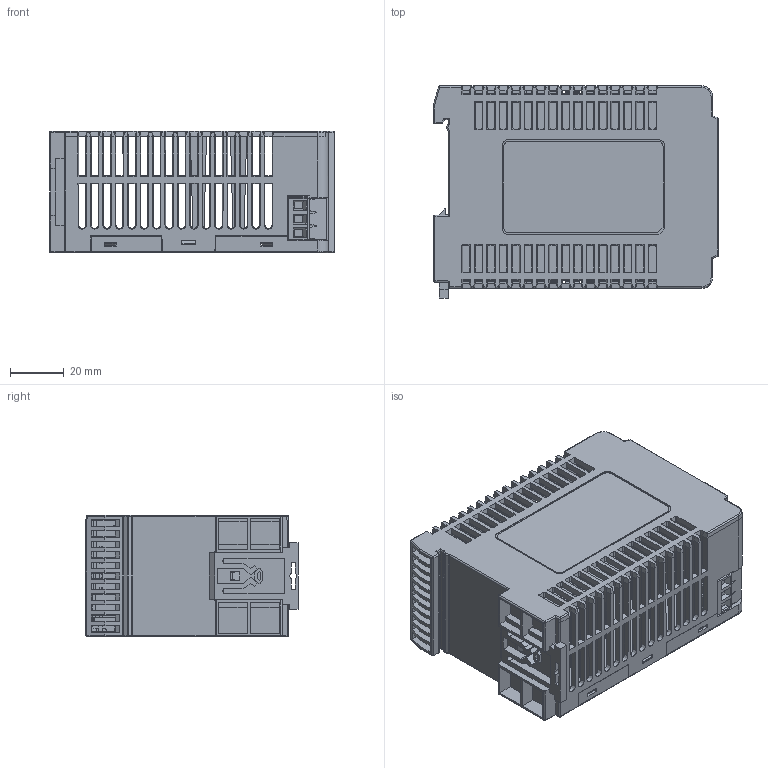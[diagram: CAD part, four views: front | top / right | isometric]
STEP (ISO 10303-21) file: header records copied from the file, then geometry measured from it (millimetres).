
FILE_DESCRIPTION((''),'2;1');
FILE_NAME('DRS-24V100W1AZ_ASM','2018-09-19T',('warud'),(''),'PRO/ENGINEER BY PARAMETRIC TECHNOLOGY CORPORATION, 2010180','PRO/ENGINEER BY PARAMETRIC TECHNOLOGY CORPORATION, 2010180','');
FILE_SCHEMA(('CONFIG_CONTROL_DESIGN','SHAPE_APPEARANCE_LAYERS_GROUPS'));
Products named in the file (13): 3300037TPS00_330234460000; 3300029TPS01; PWB_MAINBOARD; DCT-2268; 307301637W_A_4-PIN; 307301627W; ASSY_DCT-2268_ASM; EE_LED_2300321531; EE_VR_0604101318; ASSY_MAINBOARD_ASM; 326860490101_SPEC_LABEL; 3471801700; DRS-24V100W1AZ_ASM
Assembly tree (13 placements, depth 4):
  DRS-24V100W1AZ_ASM
    3300037TPS00_330234460000
    3300029TPS01
    ASSY_MAINBOARD_ASM
      PWB_MAINBOARD
      ASSY_DCT-2268_ASM
        DCT-2268
        307301637W_A_4-PIN  x2
        307301627W
      EE_LED_2300321531
      EE_VR_0604101318
    326860490101_SPEC_LABEL
    3471801700
Bounding box: 105.53 x 78.6 x 45 mm (x, y, z)
Volume: 70350.9 mm3; surface area: 96199.1 mm2
Topology: 11 solids, 14 shells, 3641 faces, 10060 edges, 6546 vertices
Faces by surface type: plane 2682, cylinder 436, extrusion 196, cone 165, torus 84, bspline 60, sphere 18
Entity records: 146650 total; most frequent: CARTESIAN_POINT 26736, ORIENTED_EDGE 19232, DIRECTION 16463, PRESENTATION_STYLE_ASSIGNMENT 9822, STYLED_ITEM 9626, CURVE_STYLE 9616, EDGE_CURVE 9616, VECTOR 7983
